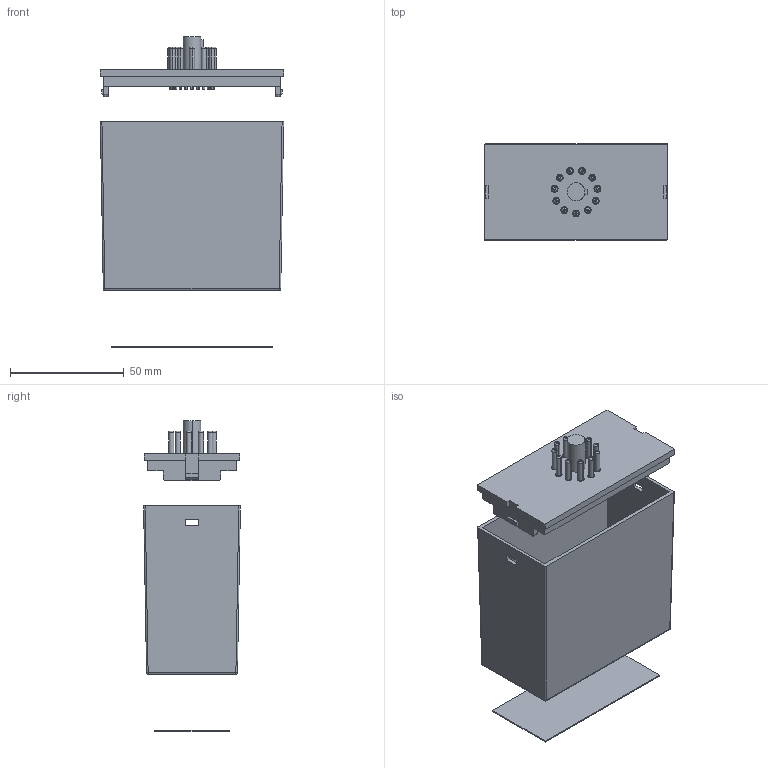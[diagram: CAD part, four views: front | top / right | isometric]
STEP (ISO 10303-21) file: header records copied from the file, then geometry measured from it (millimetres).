
FILE_DESCRIPTION (( 'STEP AP214' ), '1' );
FILE_NAME ('Conjunt PP17.STEP', '2016-10-05T13:43:26', ( 'aaa' ), ( '' ), 'SwSTEP 2.0', 'SolidWorks 2013', '' );
FILE_SCHEMA (( 'AUTOMOTIVE_DESIGN' ));
Length unit declared in the file: millimetre
Products named in the file (6): Conjunt PP17; Caratula; Tapa amb conectors; Conector; Tapa sense conectors PP17; Caixa PP17
Assembly tree (15 placements, depth 3):
  Conjunt PP17
    Caixa PP17
    Tapa amb conectors
      Tapa sense conectors PP17
      Conector  x11
    Caratula
Bounding box: 80.5 x 42.5 x 136.5 mm (x, y, z)
Volume: 50583.4 mm3; surface area: 59387.9 mm2
Topology: 14 solids, 14 shells, 391 faces, 892 edges, 568 vertices
Faces by surface type: plane 187, cylinder 156, torus 44, sphere 4
Entity records: 7860 total; most frequent: DIRECTION 1366, CARTESIAN_POINT 1322, ORIENTED_EDGE 1264, EDGE_CURVE 632, AXIS2_PLACEMENT_3D 468, VECTOR 430, LINE 430, VERTEX_POINT 408
